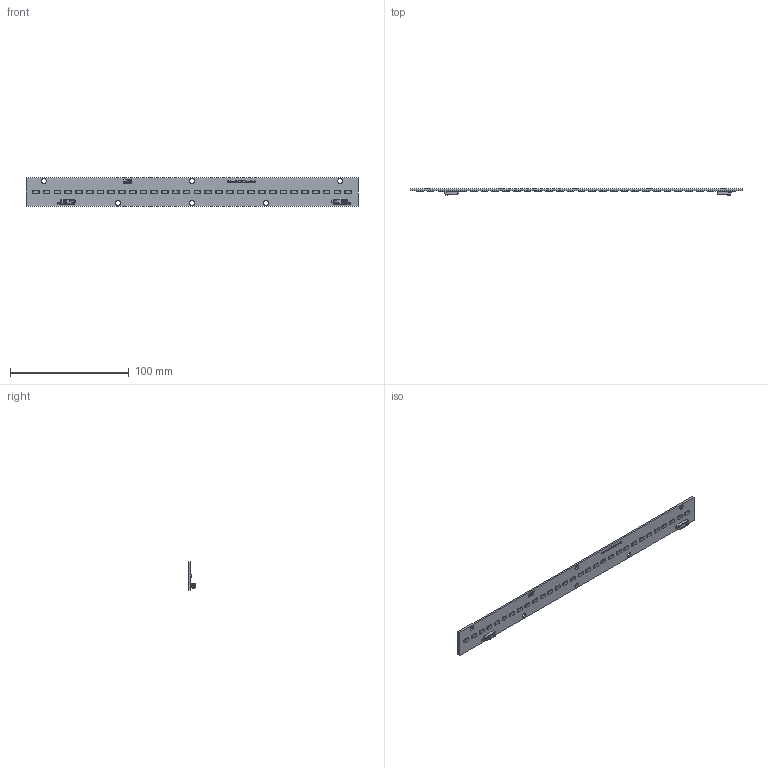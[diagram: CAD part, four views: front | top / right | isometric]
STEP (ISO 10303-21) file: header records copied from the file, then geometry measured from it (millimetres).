
FILE_DESCRIPTION(/* description */ ('Unknown'),/* implementation_level */ '2;1');
FILE_NAME(/* name */ 'LinLED 280x24mm 1100lm 2C 30V LINNEA-GC sh-000 2023-12-06',/* time_stamp */ '2023-12-06T12:20:51+01:00',/* author */ ('Unknown'),/* organization */ ('Unknown'),/* preprocessor_version */ 'ST-DEVELOPER v18.102',/* originating_system */ 'Solid Edge',/* authorisation */ 'Unknown');
FILE_SCHEMA (('AUTOMOTIVE_DESIGN {1 0 10303 214 3 1 1}'));
Products named in the file (1): LinLED 280x24mm 1100lm 2C 30V LINNEA-GC sh-000 2023-12-06
Bounding box: 280 x 5.1 x 24 mm (x, y, z)
Volume: 11169.2 mm3; surface area: 15172 mm2
Topology: 3 solids, 3 shells, 2294 faces, 5914 edges, 3857 vertices
Faces by surface type: plane 1696, cylinder 252, bspline 168, cone 150, sphere 18, torus 10
Full cylindrical faces by diameter (mm): 4.2 x6
Entity records: 86228 total; most frequent: CARTESIAN_POINT 18583, ORIENTED_EDGE 11760, DIRECTION 10354, EDGE_CURVE 5880, LINE 4648, VECTOR 4648, VERTEX_POINT 3851, AXIS2_PLACEMENT_3D 2853
